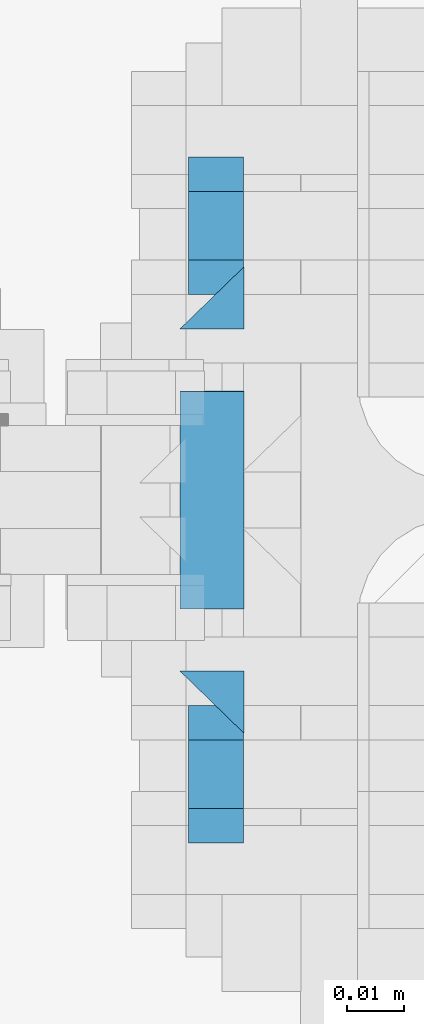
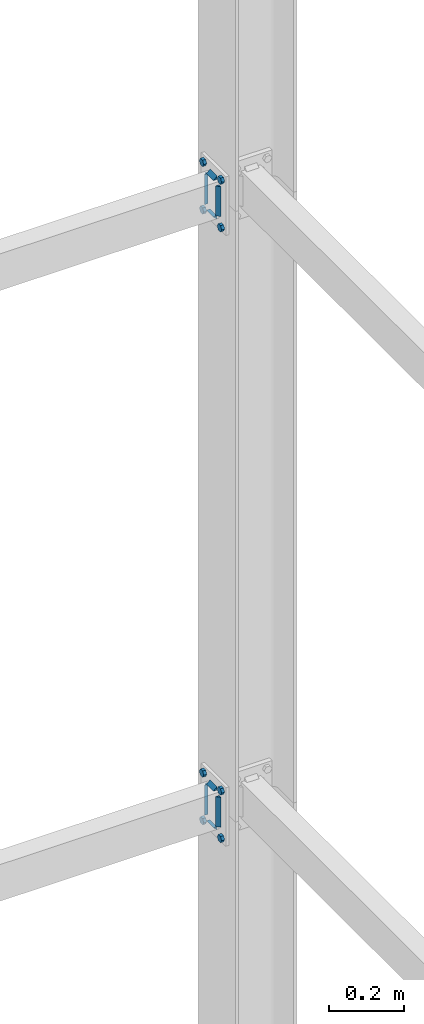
# One storey, part 222 of 251: 16 fasteners, 8 mechanical fasteners.
"""IFC4 building model written with IfcOpenShell, lengths in metres."""

from ifc_helpers import new_model, si_unit, frame, origin_with_axes, place, context, project, spatial, polyline, outline, extrude, type_object, element, save


model = new_model("IFC4")

# Units and contexts
model_context = context("Model", 3, precision=1e-05, world=origin_with_axes())
ifc_project = project(units=[si_unit("LENGTHUNIT", "METRE"), si_unit("AREAUNIT", "SQUARE_METRE"), si_unit("VOLUMEUNIT", "CUBIC_METRE"), si_unit("MASSUNIT", "GRAM", prefix="KILO"), si_unit("TIMEUNIT", "SECOND"), si_unit("PLANEANGLEUNIT", "RADIAN"), si_unit("SOLIDANGLEUNIT", "STERADIAN"), si_unit("THERMODYNAMICTEMPERATUREUNIT", "DEGREE_CELSIUS")], contexts=[model_context])

# Site, building, storey
placement_1 = place(None, origin_with_axes())
site = spatial("IfcSite", under=ifc_project, at=placement_1, Name="Italia", CompositionType="ELEMENT")
building = spatial("IfcBuilding", under=site, at=placement_1, Name="Deposito", CompositionType="ELEMENT")
storey = spatial("IfcBuildingStorey", under=building, at=placement_1, Name="Storey 0", CompositionType="ELEMENT", Elevation=0.0)

# Fasteners
fastener_type_1 = type_object("IfcFastenerType", Name="Collegamenti -005_-006 -008_-007 -013_-014 -016_-015", PredefinedType="WELD")
placement_2 = place(placement_1, origin_with_axes())
fastener_1_placement = place(placement_2, origin_with_axes())
element("IfcFastener", 1, at=fastener_1_placement, inside=storey, type_object=fastener_type_1, Name="Collegamenti -005_-006 -008_-007 -013_-014 -016_-015", context=model_context, shape_type="SweptSolid", body=[
    extrude(outline(polyline([(0.0, 0.0), (0.0111732, -0.0108382), (0.0, -0.0108382), (0.0, 0.0)])), frame((19.8951, 19.9809, 1.07079), z_axis=(0.0, 1.0, 0.0), x_axis=(-1.0, 0.0, 0.0)), (0.0, 0.0, 1.0), 0.0381012),
])
fastener_type_2 = type_object("IfcFastenerType", Name="Collegamenti -005_-006 -008_-007 -013_-014 -016_-015", PredefinedType="WELD")
fastener_2_placement = place(placement_2, origin_with_axes())
element("IfcFastener", 2, at=fastener_2_placement, inside=storey, type_object=fastener_type_2, Name="Collegamenti -005_-006 -008_-007 -013_-014 -016_-015", context=model_context, shape_type="SweptSolid", body=[
    extrude(outline(polyline([(0.0, 0.0), (0.0108376, 0.0111732), (0.0108376, 0.0), (0.0, 0.0)])), frame((19.8951, 19.9592, 0.95095), z_axis=(0.0, 0.0, 1.0), x_axis=(0.0, 1.0, 0.0)), (0.0, 0.0, 1.0), 0.0980999),
])
fastener_type_3 = type_object("IfcFastenerType", Name="Collegamenti -005_-006 -008_-007 -013_-014 -016_-015", PredefinedType="WELD")
fastener_3_placement = place(placement_2, origin_with_axes())
element("IfcFastener", 3, at=fastener_3_placement, inside=storey, type_object=fastener_type_3, Name="Collegamenti -005_-006 -008_-007 -013_-014 -016_-015", context=model_context, shape_type="SweptSolid", body=[
    extrude(outline(polyline([(0.0, 0.0), (-0.0108376, -0.0111732), (-0.0108376, 0.0), (0.0, 0.0)])), frame((19.8951, 20.0408, 1.04905), z_axis=(0.0, 0.0, -1.0), x_axis=(0.0, 1.0, 0.0)), (0.0, 0.0, 1.0), 0.0980999),
])
fastener_type_4 = type_object("IfcFastenerType", Name="Collegamenti -005_-006 -008_-007 -013_-014 -016_-015", PredefinedType="WELD")
fastener_4_placement = place(placement_2, origin_with_axes())
element("IfcFastener", 4, at=fastener_4_placement, inside=storey, type_object=fastener_type_4, Name="Collegamenti -005_-006 -008_-007 -013_-014 -016_-015", context=model_context, shape_type="SweptSolid", body=[
    extrude(outline(polyline([(0.0, 0.0), (-0.0111732, 0.0108382), (0.0, 0.0108382), (0.0, 0.0)])), frame((19.8951, 20.0191, 0.929212), z_axis=(0.0, -1.0, 0.0), x_axis=(1.0, 0.0, 0.0)), (0.0, 0.0, 1.0), 0.0381012),
])
fastener_type_5 = type_object("IfcFastenerType", Name="Collegamenti -005_-006 -008_-007 -013_-014 -016_-015", PredefinedType="WELD")
fastener_5_placement = place(placement_2, origin_with_axes())
element("IfcFastener", 5, at=fastener_5_placement, inside=storey, type_object=fastener_type_5, Name="Collegamenti -005_-006 -008_-007 -013_-014 -016_-015", context=model_context, shape_type="SweptSolid", body=[
    extrude(outline(polyline([(0.0, 0.0), (0.0111732, -0.0108382), (0.0, -0.0108382), (0.0, 0.0)])), frame((19.8951, 19.9809, 1.07079), z_axis=(0.0, 1.0, 0.0), x_axis=(-1.0, 0.0, 0.0)), (0.0, 0.0, 1.0), 0.0381012),
])
fastener_type_6 = type_object("IfcFastenerType", Name="Collegamenti -005_-006 -008_-007 -013_-014 -016_-015", PredefinedType="WELD")
fastener_6_placement = place(placement_2, origin_with_axes())
element("IfcFastener", 6, at=fastener_6_placement, inside=storey, type_object=fastener_type_6, Name="Collegamenti -005_-006 -008_-007 -013_-014 -016_-015", context=model_context, shape_type="SweptSolid", body=[
    extrude(outline(polyline([(0.0, 0.0), (0.0108376, 0.0111732), (0.0108376, 0.0), (0.0, 0.0)])), frame((19.8951, 19.9592, 0.95095), z_axis=(0.0, 0.0, 1.0), x_axis=(0.0, 1.0, 0.0)), (0.0, 0.0, 1.0), 0.0980999),
])
fastener_type_7 = type_object("IfcFastenerType", Name="Collegamenti -005_-006 -008_-007 -013_-014 -016_-015", PredefinedType="WELD")
fastener_7_placement = place(placement_2, origin_with_axes())
element("IfcFastener", 7, at=fastener_7_placement, inside=storey, type_object=fastener_type_7, Name="Collegamenti -005_-006 -008_-007 -013_-014 -016_-015", context=model_context, shape_type="SweptSolid", body=[
    extrude(outline(polyline([(0.0, 0.0), (-0.0108376, -0.0111732), (-0.0108376, 0.0), (0.0, 0.0)])), frame((19.8951, 20.0408, 1.04905), z_axis=(0.0, 0.0, -1.0), x_axis=(0.0, 1.0, 0.0)), (0.0, 0.0, 1.0), 0.0980999),
])
fastener_type_8 = type_object("IfcFastenerType", Name="Collegamenti -005_-006 -008_-007 -013_-014 -016_-015", PredefinedType="WELD")
fastener_8_placement = place(placement_2, origin_with_axes())
element("IfcFastener", 8, at=fastener_8_placement, inside=storey, type_object=fastener_type_8, Name="Collegamenti -005_-006 -008_-007 -013_-014 -016_-015", context=model_context, shape_type="SweptSolid", body=[
    extrude(outline(polyline([(0.0, 0.0), (-0.0111732, 0.0108382), (0.0, 0.0108382), (0.0, 0.0)])), frame((19.8951, 20.0191, 0.929212), z_axis=(0.0, -1.0, 0.0), x_axis=(1.0, 0.0, 0.0)), (0.0, 0.0, 1.0), 0.0381012),
])

# Mechanical fasteners
mechanical_fastener_type_1 = type_object("IfcMechanicalFastenerType", Name="Collegamenti -005_-006 -008_-007 -013_-014 -016_-015", PredefinedType="BOLT")
mechanical_fastener_1_placement = place(placement_2, origin_with_axes())
element("IfcMechanicalFastener", 9, at=mechanical_fastener_1_placement, inside=storey, type_object=mechanical_fastener_type_1, Name="Collegamenti -005_-006 -008_-007 -013_-014 -016_-015", NominalDiameter=0.0119993, context=model_context, shape_type="SweptSolid", body=[
    extrude(outline(polyline([(0.0, 0.0), (-0.012001, 0.0), (-0.0179996, 0.0103923), (-0.012001, 0.0207846), (0.0, 0.0207846), (0.00600052, 0.0103923), (0.0, 0.0)])), frame((19.895, 20.042, 0.911608), z_axis=(-1.0, 0.0, 0.0), x_axis=(0.0, -1.0, 0.0)), (0.0, 0.0, 1.0), 0.00959969),
])
mechanical_fastener_type_2 = type_object("IfcMechanicalFastenerType", Name="Collegamenti -005_-006 -008_-007 -013_-014 -016_-015", PredefinedType="BOLT")
mechanical_fastener_2_placement = place(placement_2, origin_with_axes())
element("IfcMechanicalFastener", 10, at=mechanical_fastener_2_placement, inside=storey, type_object=mechanical_fastener_type_2, Name="Collegamenti -005_-006 -008_-007 -013_-014 -016_-015", NominalDiameter=0.0119993, context=model_context, shape_type="SweptSolid", body=[
    extrude(outline(polyline([(0.0, 0.0), (-0.012001, 0.0), (-0.0180016, 0.0103923), (-0.012001, 0.0207846), (0.0, 0.0207846), (0.00599861, 0.0103923), (0.0, 0.0)])), frame((19.895, 19.946, 0.911608), z_axis=(-1.0, 0.0, 0.0), x_axis=(0.0, -1.0, 0.0)), (0.0, 0.0, 1.0), 0.00959969),
])
mechanical_fastener_type_3 = type_object("IfcMechanicalFastenerType", Name="Collegamenti -005_-006 -008_-007 -013_-014 -016_-015", PredefinedType="BOLT")
mechanical_fastener_3_placement = place(placement_2, origin_with_axes())
element("IfcMechanicalFastener", 11, at=mechanical_fastener_3_placement, inside=storey, type_object=mechanical_fastener_type_3, Name="Collegamenti -005_-006 -008_-007 -013_-014 -016_-015", NominalDiameter=0.0119993, context=model_context, shape_type="SweptSolid", body=[
    extrude(outline(polyline([(0.0, 0.0), (-0.012001, 0.0), (-0.0179996, 0.0103923), (-0.012001, 0.0207846), (0.0, 0.0207846), (0.00600052, 0.0103923), (0.0, 0.0)])), frame((19.895, 20.042, 1.06761), z_axis=(-1.0, 0.0, 0.0), x_axis=(0.0, -1.0, 0.0)), (0.0, 0.0, 1.0), 0.00959969),
])
mechanical_fastener_type_4 = type_object("IfcMechanicalFastenerType", Name="Collegamenti -005_-006 -008_-007 -013_-014 -016_-015", PredefinedType="BOLT")
mechanical_fastener_4_placement = place(placement_2, origin_with_axes())
element("IfcMechanicalFastener", 12, at=mechanical_fastener_4_placement, inside=storey, type_object=mechanical_fastener_type_4, Name="Collegamenti -005_-006 -008_-007 -013_-014 -016_-015", NominalDiameter=0.0119993, context=model_context, shape_type="SweptSolid", body=[
    extrude(outline(polyline([(0.0, 0.0), (-0.012001, 0.0), (-0.0180016, 0.0103923), (-0.012001, 0.0207846), (0.0, 0.0207846), (0.00599861, 0.0103923), (0.0, 0.0)])), frame((19.895, 19.946, 1.06761), z_axis=(-1.0, 0.0, 0.0), x_axis=(0.0, -1.0, 0.0)), (0.0, 0.0, 1.0), 0.00959969),
])

# Fasteners
fastener_type_9 = type_object("IfcFastenerType", Name="Collegamenti -005_-006 -008_-007 -013_-014 -016_-015", PredefinedType="WELD")
fastener_9_placement = place(placement_2, origin_with_axes())
element("IfcFastener", 13, at=fastener_9_placement, inside=storey, type_object=fastener_type_9, Name="Collegamenti -005_-006 -008_-007 -013_-014 -016_-015", context=model_context, shape_type="SweptSolid", body=[
    extrude(outline(polyline([(0.0, 0.0), (0.0111732, -0.0108383), (0.0, -0.0108383), (0.0, 0.0)])), frame((19.8951, 19.9809, 3.07079), z_axis=(0.0, 1.0, 0.0), x_axis=(-1.0, 0.0, 0.0)), (0.0, 0.0, 1.0), 0.0381012),
])
fastener_type_10 = type_object("IfcFastenerType", Name="Collegamenti -005_-006 -008_-007 -013_-014 -016_-015", PredefinedType="WELD")
fastener_10_placement = place(placement_2, origin_with_axes())
element("IfcFastener", 14, at=fastener_10_placement, inside=storey, type_object=fastener_type_10, Name="Collegamenti -005_-006 -008_-007 -013_-014 -016_-015", context=model_context, shape_type="SweptSolid", body=[
    extrude(outline(polyline([(0.0, 0.0), (0.0108376, 0.0111732), (0.0108376, 0.0), (0.0, 0.0)])), frame((19.8951, 19.9592, 2.95095), z_axis=(0.0, 0.0, 1.0), x_axis=(0.0, 1.0, 0.0)), (0.0, 0.0, 1.0), 0.0980997),
])
fastener_type_11 = type_object("IfcFastenerType", Name="Collegamenti -005_-006 -008_-007 -013_-014 -016_-015", PredefinedType="WELD")
fastener_11_placement = place(placement_2, origin_with_axes())
element("IfcFastener", 15, at=fastener_11_placement, inside=storey, type_object=fastener_type_11, Name="Collegamenti -005_-006 -008_-007 -013_-014 -016_-015", context=model_context, shape_type="SweptSolid", body=[
    extrude(outline(polyline([(0.0, 0.0), (-0.0108376, -0.0111732), (-0.0108376, 0.0), (0.0, 0.0)])), frame((19.8951, 20.0408, 3.04905), z_axis=(0.0, 0.0, -1.0), x_axis=(0.0, 1.0, 0.0)), (0.0, 0.0, 1.0), 0.0980997),
])
fastener_type_12 = type_object("IfcFastenerType", Name="Collegamenti -005_-006 -008_-007 -013_-014 -016_-015", PredefinedType="WELD")
fastener_12_placement = place(placement_2, origin_with_axes())
element("IfcFastener", 16, at=fastener_12_placement, inside=storey, type_object=fastener_type_12, Name="Collegamenti -005_-006 -008_-007 -013_-014 -016_-015", context=model_context, shape_type="SweptSolid", body=[
    extrude(outline(polyline([(0.0, 0.0), (-0.0111732, 0.0108383), (0.0, 0.0108383), (0.0, 0.0)])), frame((19.8951, 20.0191, 2.92921), z_axis=(0.0, -1.0, 0.0), x_axis=(1.0, 0.0, 0.0)), (0.0, 0.0, 1.0), 0.0381012),
])
fastener_type_13 = type_object("IfcFastenerType", Name="Collegamenti -005_-006 -008_-007 -013_-014 -016_-015", PredefinedType="WELD")
fastener_13_placement = place(placement_2, origin_with_axes())
element("IfcFastener", 17, at=fastener_13_placement, inside=storey, type_object=fastener_type_13, Name="Collegamenti -005_-006 -008_-007 -013_-014 -016_-015", context=model_context, shape_type="SweptSolid", body=[
    extrude(outline(polyline([(0.0, 0.0), (0.0111732, -0.0108383), (0.0, -0.0108383), (0.0, 0.0)])), frame((19.8951, 19.9809, 3.07079), z_axis=(0.0, 1.0, 0.0), x_axis=(-1.0, 0.0, 0.0)), (0.0, 0.0, 1.0), 0.0381012),
])
fastener_type_14 = type_object("IfcFastenerType", Name="Collegamenti -005_-006 -008_-007 -013_-014 -016_-015", PredefinedType="WELD")
fastener_14_placement = place(placement_2, origin_with_axes())
element("IfcFastener", 18, at=fastener_14_placement, inside=storey, type_object=fastener_type_14, Name="Collegamenti -005_-006 -008_-007 -013_-014 -016_-015", context=model_context, shape_type="SweptSolid", body=[
    extrude(outline(polyline([(0.0, 0.0), (0.0108376, 0.0111732), (0.0108376, 0.0), (0.0, 0.0)])), frame((19.8951, 19.9592, 2.95095), z_axis=(0.0, 0.0, 1.0), x_axis=(0.0, 1.0, 0.0)), (0.0, 0.0, 1.0), 0.0980997),
])
fastener_type_15 = type_object("IfcFastenerType", Name="Collegamenti -005_-006 -008_-007 -013_-014 -016_-015", PredefinedType="WELD")
fastener_15_placement = place(placement_2, origin_with_axes())
element("IfcFastener", 19, at=fastener_15_placement, inside=storey, type_object=fastener_type_15, Name="Collegamenti -005_-006 -008_-007 -013_-014 -016_-015", context=model_context, shape_type="SweptSolid", body=[
    extrude(outline(polyline([(0.0, 0.0), (-0.0108376, -0.0111732), (-0.0108376, 0.0), (0.0, 0.0)])), frame((19.8951, 20.0408, 3.04905), z_axis=(0.0, 0.0, -1.0), x_axis=(0.0, 1.0, 0.0)), (0.0, 0.0, 1.0), 0.0980997),
])
fastener_type_16 = type_object("IfcFastenerType", Name="Collegamenti -005_-006 -008_-007 -013_-014 -016_-015", PredefinedType="WELD")
fastener_16_placement = place(placement_2, origin_with_axes())
element("IfcFastener", 20, at=fastener_16_placement, inside=storey, type_object=fastener_type_16, Name="Collegamenti -005_-006 -008_-007 -013_-014 -016_-015", context=model_context, shape_type="SweptSolid", body=[
    extrude(outline(polyline([(0.0, 0.0), (-0.0111732, 0.0108383), (0.0, 0.0108383), (0.0, 0.0)])), frame((19.8951, 20.0191, 2.92921), z_axis=(0.0, -1.0, 0.0), x_axis=(1.0, 0.0, 0.0)), (0.0, 0.0, 1.0), 0.0381012),
])

# Mechanical fasteners
mechanical_fastener_type_5 = type_object("IfcMechanicalFastenerType", Name="Collegamenti -005_-006 -008_-007 -013_-014 -016_-015", PredefinedType="BOLT")
mechanical_fastener_5_placement = place(placement_2, origin_with_axes())
element("IfcMechanicalFastener", 21, at=mechanical_fastener_5_placement, inside=storey, type_object=mechanical_fastener_type_5, Name="Collegamenti -005_-006 -008_-007 -013_-014 -016_-015", NominalDiameter=0.0119992, context=model_context, shape_type="SweptSolid", body=[
    extrude(outline(polyline([(0.0, 0.0), (-0.012001, 0.0), (-0.0179996, 0.0103922), (-0.012001, 0.0207846), (0.0, 0.0207846), (0.00600052, 0.0103922), (0.0, 0.0)])), frame((19.895, 20.042, 2.91161), z_axis=(-1.0, 0.0, 0.0), x_axis=(0.0, -1.0, 0.0)), (0.0, 0.0, 1.0), 0.00959969),
])
mechanical_fastener_type_6 = type_object("IfcMechanicalFastenerType", Name="Collegamenti -005_-006 -008_-007 -013_-014 -016_-015", PredefinedType="BOLT")
mechanical_fastener_6_placement = place(placement_2, origin_with_axes())
element("IfcMechanicalFastener", 22, at=mechanical_fastener_6_placement, inside=storey, type_object=mechanical_fastener_type_6, Name="Collegamenti -005_-006 -008_-007 -013_-014 -016_-015", NominalDiameter=0.0119992, context=model_context, shape_type="SweptSolid", body=[
    extrude(outline(polyline([(0.0, 0.0), (-0.012001, 0.0), (-0.0180016, 0.0103922), (-0.012001, 0.0207846), (0.0, 0.0207846), (0.00599861, 0.0103922), (0.0, 0.0)])), frame((19.895, 19.946, 2.91161), z_axis=(-1.0, 0.0, 0.0), x_axis=(0.0, -1.0, 0.0)), (0.0, 0.0, 1.0), 0.00959969),
])
mechanical_fastener_type_7 = type_object("IfcMechanicalFastenerType", Name="Collegamenti -005_-006 -008_-007 -013_-014 -016_-015", PredefinedType="BOLT")
mechanical_fastener_7_placement = place(placement_2, origin_with_axes())
element("IfcMechanicalFastener", 23, at=mechanical_fastener_7_placement, inside=storey, type_object=mechanical_fastener_type_7, Name="Collegamenti -005_-006 -008_-007 -013_-014 -016_-015", NominalDiameter=0.0119992, context=model_context, shape_type="SweptSolid", body=[
    extrude(outline(polyline([(0.0, 0.0), (-0.012001, 0.0), (-0.0179996, 0.0103924), (-0.012001, 0.0207846), (0.0, 0.0207846), (0.00600052, 0.0103924), (0.0, 0.0)])), frame((19.895, 20.042, 3.06761), z_axis=(-1.0, 0.0, 0.0), x_axis=(0.0, -1.0, 0.0)), (0.0, 0.0, 1.0), 0.00959969),
])
mechanical_fastener_type_8 = type_object("IfcMechanicalFastenerType", Name="Collegamenti -005_-006 -008_-007 -013_-014 -016_-015", PredefinedType="BOLT")
mechanical_fastener_8_placement = place(placement_2, origin_with_axes())
element("IfcMechanicalFastener", 24, at=mechanical_fastener_8_placement, inside=storey, type_object=mechanical_fastener_type_8, Name="Collegamenti -005_-006 -008_-007 -013_-014 -016_-015", NominalDiameter=0.0119992, context=model_context, shape_type="SweptSolid", body=[
    extrude(outline(polyline([(0.0, 0.0), (-0.012001, 0.0), (-0.0180016, 0.0103924), (-0.012001, 0.0207846), (0.0, 0.0207846), (0.00599861, 0.0103924), (0.0, 0.0)])), frame((19.895, 19.946, 3.06761), z_axis=(-1.0, 0.0, 0.0), x_axis=(0.0, -1.0, 0.0)), (0.0, 0.0, 1.0), 0.00959969),
])

save(model, "model.ifc")
